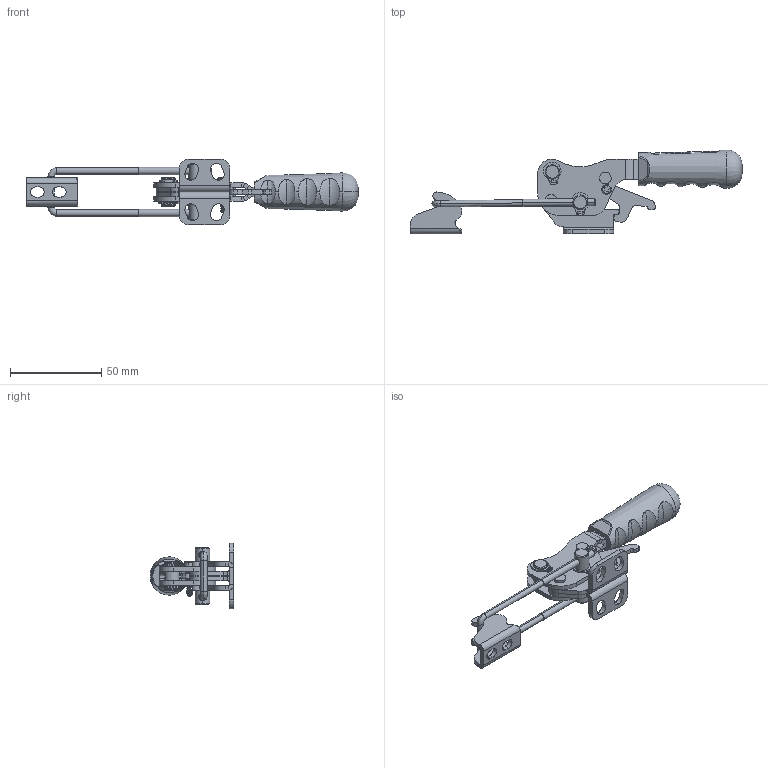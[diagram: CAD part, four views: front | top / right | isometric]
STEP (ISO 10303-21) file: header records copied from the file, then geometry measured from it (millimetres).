
FILE_DESCRIPTION (( 'STEP AP203' ), '1' );
FILE_NAME ('13105_Y_K.STEP', '2022-11-29T14:00:40', ( '' ), ( '' ), 'SwSTEP 2.0', 'SolidWorks 2023', '' );
FILE_SCHEMA (( 'CONFIG_CONTROL_DESIGN' ));
Length unit declared in the file: millimetre
Products named in the file (14): 13105 Gövde_Varsayılan; 4x12_5_PERÇİN_Varsayılan; Aynalama13105 Gövde_Varsayılan; M3x16 Imbus Civata; 13105 Kilit Deneme 3_Varsayılan; DIN 471 Ø8 Segman_Circlip DIN 471 - 8 x 0.8; 13105 Hareket Kolu_Varsayılan; 13105_Y_K; dikey kullanım cap 8 mili_Varsayılan; M4x40_U_KANCA_Varsayılan; Ø8xM4 U Kanca_Varsayılan; C55_Yeni_Tutamak_Varsayılan; M4_KK_2; Aynalama13105 Hareket Kolu_Varsayılan
Assembly tree (17 placements, depth 2):
  13105_Y_K
    13105 Gövde_Varsayılan
    13105 Hareket Kolu_Varsayılan
    Aynalama13105 Hareket Kolu_Varsayılan
    Aynalama13105 Gövde_Varsayılan
    Ø8xM4 U Kanca_Varsayılan
    4x12_5_PERÇİN_Varsayılan  x2
    M3x16 Imbus Civata
    DIN 471 Ø8 Segman_Circlip DIN 471 - 8 x 0.8  x4
    M4x40_U_KANCA_Varsayılan
    C55_Yeni_Tutamak_Varsayılan
    dikey kullanım cap 8 mili_Varsayılan
    13105 Kilit Deneme 3_Varsayılan
    M4_KK_2
Bounding box: 182.13 x 46.03 x 36.06 mm (x, y, z)
Volume: 33440.7 mm3; surface area: 26935.3 mm2
Topology: 17 solids, 17 shells, 736 faces, 1892 edges, 1212 vertices
Faces by surface type: plane 378, cylinder 293, torus 32, bspline 17, cone 16
Entity records: 27957 total; most frequent: CARTESIAN_POINT 11780, DIRECTION 3056, ORIENTED_EDGE 3054, EDGE_CURVE 1527, AXIS2_PLACEMENT_3D 1072, VERTEX_POINT 974, VECTOR 912, LINE 912
